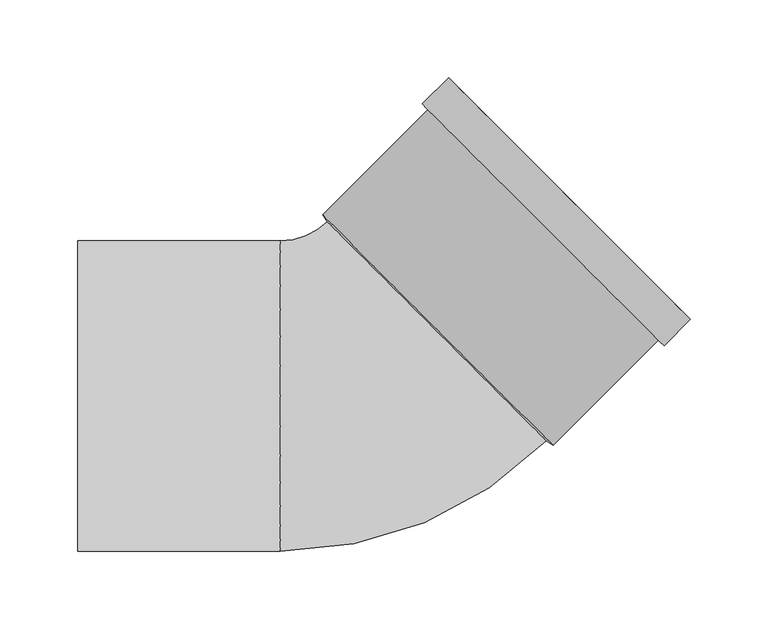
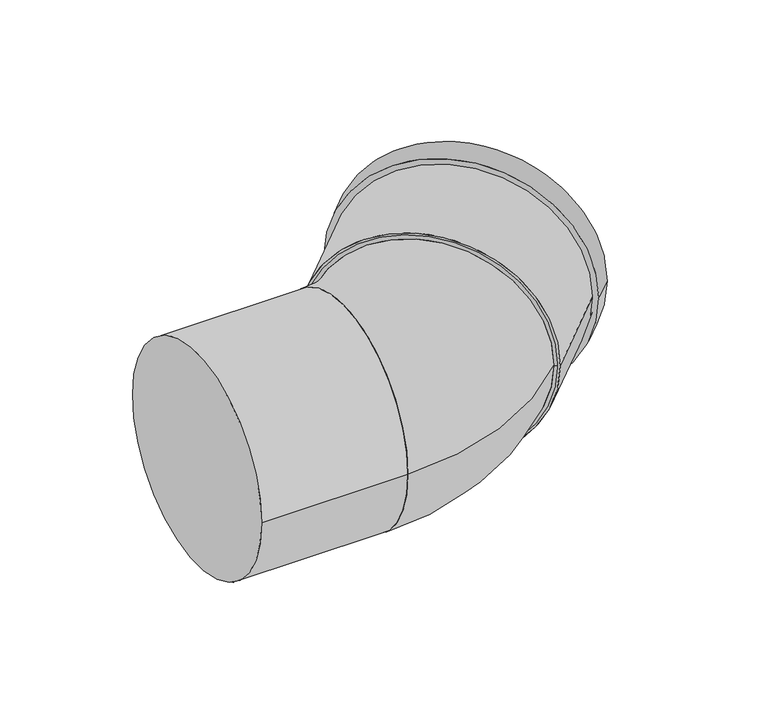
"""IFC4 building model written with IfcOpenShell, lengths in millimetres: pipe fitting geometry, Superdrain SKB Bend : Superdrain SKB Bend."""

from ifc_helpers import new_model, si_unit, point, frame, origin, origin_2d, place, context, project, spatial, polyline, circle_curve, ellipse_curve, trimmed, segment, composite_curve, outline, extrude, source, transform, mapped, element, save
from ifc_brep_helpers import plane_surface, revolved_surface, advanced_brep


def pipe_fitting_27500b87(model_context):
    return source(origin(), model_context, "Body", "SolidModel", [
        advanced_brep(
        [(112.4299782, -28.991378, 0.0), (-28.991378, 112.4299782, 0.0), (-59.0, -100.0, 0.0), (-59.0, 100.0, 0.0)],
        [
            (0, 1, circle_curve(frame((41.7193001, 41.7193001, 0.0), z_axis=(0.7071067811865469, 0.7071067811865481, 0.0), x_axis=(-0.7071067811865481, 0.7071067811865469, 0.0)), 100.0)),
            (1, 0, circle_curve(frame((41.7193001, 41.7193001, 0.0), z_axis=(0.7071067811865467, 0.7071067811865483, 0.0), x_axis=(-0.7071067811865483, 0.7071067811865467, 0.0)), 100.0)),
            (2, 3, circle_curve(frame((-59.0, 0.0, 0.0), z_axis=(-1.0, 0.0, 0.0), x_axis=(0.0, 1.0, 0.0)), 100.0)),
            (3, 2, circle_curve(frame((-59.0, 0.0, 0.0), z_axis=(-1.0, 0.0, 0.0), x_axis=(0.0, 1.0, 0.0)), 100.0)),
            (3, 1, circle_curve(frame((-59.0, 142.4386002, 0.0), z_axis=(0.0, 0.0, 1.0), x_axis=(1.0, 0.0, 0.0)), 42.4386002)),
            (0, 2, circle_curve(frame((-59.0, 142.4386002, 0.0), z_axis=(0.0, 0.0, -1.0), x_axis=(1.0, 0.0, 0.0)), 242.4386002)),
        ],
        [
            plane_surface(frame((41.7193001, 41.7193001, 0.0), z_axis=(0.707106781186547, 0.707106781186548, 0.0), x_axis=(0.0, 0.0, -1.0))),
            plane_surface(frame((-59.0, 0.0, 0.0), z_axis=(-1.0, 0.0, 0.0), x_axis=(0.0, 0.0, -1.0))),
            revolved_surface(trimmed(ellipse_curve(frame((83.4386002, 142.4386002, 0.0), z_axis=(0.0, -1.0, 0.0), x_axis=(-1.0, 0.0, 0.0)), 100.0, 100.0), [point((-16.5613998, 142.4386002, 0.0))], [point((183.4386002, 142.4386002, 0.0))], True, "CARTESIAN"), (-59.0, 142.4386002, 0.0), (0.0, 0.0, 1.0)),
            revolved_surface(trimmed(ellipse_curve(frame((83.4386002, 142.4386002, 0.0), z_axis=(0.0, -1.0, 0.0), x_axis=(-1.0, 0.0, 0.0)), 100.0, 100.0), [point((183.4386002, 142.4386002, 0.0))], [point((-16.5613998, 142.4386002, 0.0))], True, "CARTESIAN"), (-59.0, 142.4386002, 0.0), (0.0, 0.0, 1.0)),
        ],
        [
            (0, [[1, 2]]),
            (1, [[3, 4]]),
            (2, [[-4, 5, -1, 6]]),
            (3, [[-3, -6, -2, -5]]),
        ],
    ),
        extrude(outline(composite_curve([segment(trimmed(circle_curve(origin_2d(), 105.0), [point((0.0, 105.0))], [point((0.0, -105.0))], False, "CARTESIAN"), True, "CONTINUOUS"), segment(trimmed(circle_curve(origin_2d(), 105.0), [point((0.0, -105.0))], [point((0.0, 105.0))], False, "CARTESIAN"), True, "CONTINUOUS")], self_intersect=False), holes=[composite_curve([segment(trimmed(circle_curve(origin_2d(), 100.0), [point((0.0, 100.0))], [point((0.0, -100.0))], True, "CARTESIAN"), True, "CONTINUOUS"), segment(trimmed(circle_curve(origin_2d(), 100.0), [point((0.0, -100.0))], [point((0.0, 100.0))], True, "CARTESIAN"), True, "CONTINUOUS")], self_intersect=False)]), frame((42.4264069, 42.4264069, 0.0), z_axis=(0.707106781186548, 0.707106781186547, 0.0), x_axis=(0.0, 0.0, 1.0)), (0.0, 0.0, 1.0), 120.0),
        extrude(outline(composite_curve([segment(trimmed(circle_curve(origin_2d(), 110.25), [point((0.0, -110.25))], [point((0.0, 110.25))], False, "CARTESIAN"), True, "CONTINUOUS"), segment(trimmed(circle_curve(origin_2d(), 110.25), [point((0.0, 110.25))], [point((0.0, -110.25))], False, "CARTESIAN"), True, "CONTINUOUS")], self_intersect=False), holes=[composite_curve([segment(trimmed(circle_curve(origin_2d(), 100.0), [point((0.0, -100.0))], [point((0.0, 100.0))], True, "CARTESIAN"), True, "CONTINUOUS"), segment(trimmed(circle_curve(origin_2d(), 100.0), [point((0.0, 100.0))], [point((0.0, -100.0))], True, "CARTESIAN"), True, "CONTINUOUS")], self_intersect=False)]), frame((110.3086579, 110.3086579, 0.0), z_axis=(0.7071067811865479, 0.7071067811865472, 0.0), x_axis=(0.0, 0.0, 1.0)), (0.0, 0.0, 1.0), 24.0),
        advanced_brep(
        [(116.6726189, -31.8198052, 0.0), (-31.8198052, 116.6726189, 0.0), (112.4299782, -28.991378, 0.0), (-28.991378, 112.4299782, 0.0)],
        [
            (0, 1, circle_curve(frame((42.4264069, 42.4264069, 0.0), z_axis=(0.7071067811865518, 0.7071067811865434, 0.0), x_axis=(0.7071067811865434, -0.7071067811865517, 0.0)), 105.0)),
            (1, 0, circle_curve(frame((42.4264069, 42.4264069, 0.0), z_axis=(0.7071067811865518, 0.7071067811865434, 0.0), x_axis=(-0.7071067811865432, 0.7071067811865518, 0.0)), 105.0)),
            (2, 3, circle_curve(frame((41.7193001, 41.7193001, 0.0), z_axis=(-0.7071067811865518, -0.7071067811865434, 0.0), x_axis=(-0.7071067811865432, 0.7071067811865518, 0.0)), 100.0)),
            (3, 2, circle_curve(frame((41.7193001, 41.7193001, 0.0), z_axis=(-0.7071067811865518, -0.7071067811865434, 0.0), x_axis=(0.7071067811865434, -0.7071067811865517, 0.0)), 100.0)),
            (3, 1),
            (0, 2),
        ],
        [
            plane_surface(frame((42.4264069, 42.4264069, 0.0), z_axis=(0.7071067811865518, 0.7071067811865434, 0.0), x_axis=(0.0, 0.0, -1.0))),
            plane_surface(frame((41.7193001, 41.7193001, 0.0), z_axis=(-0.7071067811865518, -0.7071067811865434, 0.0), x_axis=(0.0, 0.0, -1.0))),
            revolved_surface(polyline([(-28.991378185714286, 112.42997838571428, 0.0), (-31.819805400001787, 116.67261920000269, 0.0)]), (27.5771645, 27.5771645, 0.0), (0.7071067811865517, 0.7071067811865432, 0.0)),
            revolved_surface(polyline([(112.4299783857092, -28.991378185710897, 0.0), (116.67261919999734, -31.819805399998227, 0.0)]), (27.5771645, 27.5771645, 0.0), (0.7071067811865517, 0.7071067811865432, 0.0)),
        ],
        [
            (0, [[1, 2]]),
            (1, [[3, 4]]),
            (2, [[-4, 5, -1, 6]]),
            (3, [[-3, -6, -2, -5]]),
        ],
    ),
        extrude(outline(composite_curve([segment(trimmed(circle_curve(origin_2d(), 100.0), [point((-100.0, 0.0))], [point((100.0, 0.0))], False, "CARTESIAN"), True, "CONTINUOUS"), segment(trimmed(circle_curve(origin_2d(), 100.0), [point((100.0, 0.0))], [point((-100.0, 0.0))], False, "CARTESIAN"), True, "CONTINUOUS")], self_intersect=False)), frame((-189.8, 0.0, 0.0), z_axis=(1.0, 0.0, 0.0), x_axis=(0.0, 1.0, 0.0)), (0.0, 0.0, 1.0), 130.8),
    ])


if __name__ == "__main__":
    model = new_model("IFC4")
    model_context = context("Model", 3, world=origin())
    ifc_project = project(units=[si_unit("LENGTHUNIT", "METRE", prefix="MILLI")], contexts=[model_context])
    site = spatial("IfcSite", under=ifc_project)
    building = spatial("IfcBuilding", under=site)
    placement = place(None, origin())
    pipe_fitting_shape = pipe_fitting_27500b87(model_context)
    element("IfcPipeFitting", 1, ObjectType="Superdrain SKB Bend : Superdrain SKB Bend", at=placement, inside=building, context=model_context, shape_type="MappedRepresentation", body=[
        mapped(pipe_fitting_shape, transform((0.0, 0.0, 0.0), x_axis=(1.0, 0.0, 0.0), y_axis=(0.0, 1.0, 0.0), z_axis=(0.0, 0.0, 1.0))),
    ])
    save(model, "model.ifc")
